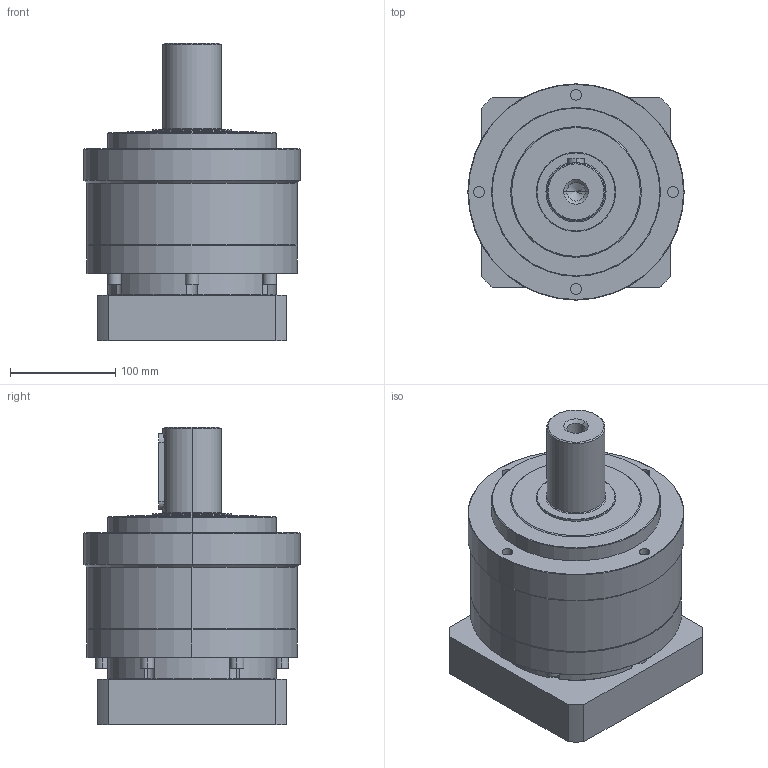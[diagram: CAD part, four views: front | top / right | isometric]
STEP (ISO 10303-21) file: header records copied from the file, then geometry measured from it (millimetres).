
FILE_DESCRIPTION (( 'STEP AP214' ), '1' );
FILE_NAME ('VRL-205-L1-S2-P1 35-114.3-200-M12.STEP', '2023-08-21T02:08:54', ( '微软用户' ), ( '微软中国' ), 'SwSTEP 2.0', 'SolidWorks 2018', '' );
FILE_SCHEMA (( 'AUTOMOTIVE_DESIGN' ));
Length unit declared in the file: millimetre
Products named in the file (1): VRL-205-L1-S2-P1 35-114.3-200-M12
Bounding box: 205 x 205 x 282 mm (x, y, z)
Volume: 5748785.2 mm3; surface area: 271213.8 mm2
Topology: 1 solids, 1 shells, 189 faces, 432 edges, 274 vertices
Faces by surface type: plane 78, cylinder 72, cone 35, torus 4
Entity records: 5473 total; most frequent: CARTESIAN_POINT 1017, DIRECTION 979, ORIENTED_EDGE 860, EDGE_CURVE 430, AXIS2_PLACEMENT_3D 374, VERTEX_POINT 274, VECTOR 231, LINE 231
